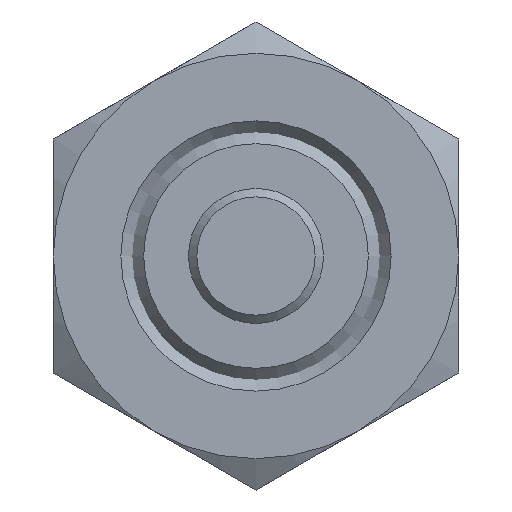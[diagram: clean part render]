
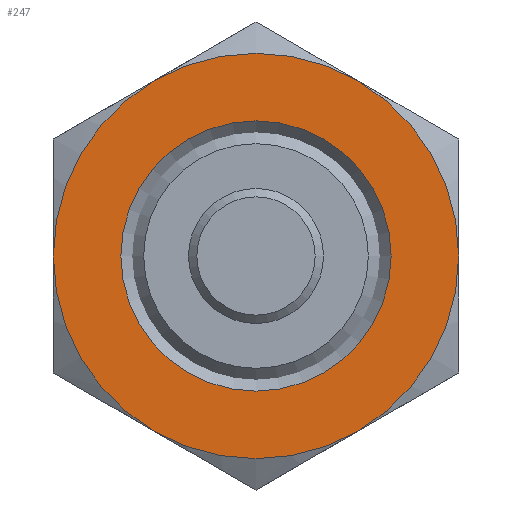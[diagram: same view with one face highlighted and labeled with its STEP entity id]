
A CAD part, front view. The second image highlights one B-rep face of the part: STEP entity #247.
In plain terms, the highlighted planar face has unit normal (0, -1, 0) as drawn and (1, 0, 0) by its records, which use the part's own axes.
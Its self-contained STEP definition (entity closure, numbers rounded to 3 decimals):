
#247 = ADVANCED_FACE( '', ( #381, #382 ), #383, .F. );
#381 = FACE_BOUND( '', #539, .T. );
#382 = FACE_OUTER_BOUND( '', #540, .T. );
#383 = PLANE( '', #541 );
#539 = EDGE_LOOP( '', ( #831 ) );
#540 = EDGE_LOOP( '', ( #832, #833, #834, #835, #836, #837 ) );
#541 = AXIS2_PLACEMENT_3D( '', #838, #839, #840 );
#831 = ORIENTED_EDGE( '', *, *, #1034, .F. );
#832 = ORIENTED_EDGE( '', *, *, #1035, .T. );
#833 = ORIENTED_EDGE( '', *, *, #1036, .T. );
#834 = ORIENTED_EDGE( '', *, *, #1037, .T. );
#835 = ORIENTED_EDGE( '', *, *, #1038, .T. );
#836 = ORIENTED_EDGE( '', *, *, #1039, .T. );
#837 = ORIENTED_EDGE( '', *, *, #1040, .T. );
#838 = CARTESIAN_POINT( '', ( 8., 12., 0. ) );
#839 = DIRECTION( '', ( -1., 0., 0. ) );
#840 = DIRECTION( '', ( 0., 0., 1. ) );
#1034 = EDGE_CURVE( '', #1192, #1192, #1193, .T. );
#1035 = EDGE_CURVE( '', #1194, #1195, #1196, .T. );
#1036 = EDGE_CURVE( '', #1195, #1174, #1197, .T. );
#1037 = EDGE_CURVE( '', #1174, #1165, #1198, .T. );
#1038 = EDGE_CURVE( '', #1165, #1186, #1199, .T. );
#1039 = EDGE_CURVE( '', #1186, #1200, #1201, .T. );
#1040 = EDGE_CURVE( '', #1200, #1194, #1202, .T. );
#1165 = VERTEX_POINT( '', #1428 );
#1174 = VERTEX_POINT( '', #1462 );
#1186 = VERTEX_POINT( '', #1500 );
#1192 = VERTEX_POINT( '', #1530 );
#1193 = CIRCLE( '', #1531, 8. );
#1194 = VERTEX_POINT( '', #1532 );
#1195 = VERTEX_POINT( '', #1533 );
#1196 = CIRCLE( '', #1534, 12. );
#1197 = CIRCLE( '', #1535, 12. );
#1198 = CIRCLE( '', #1536, 12. );
#1199 = CIRCLE( '', #1537, 12. );
#1200 = VERTEX_POINT( '', #1538 );
#1201 = CIRCLE( '', #1539, 12. );
#1202 = CIRCLE( '', #1540, 12. );
#1428 = CARTESIAN_POINT( '', ( 8., 0., 12. ) );
#1462 = CARTESIAN_POINT( '', ( 8., 10.392, 6. ) );
#1500 = CARTESIAN_POINT( '', ( 8., -10.392, 6. ) );
#1530 = CARTESIAN_POINT( '', ( 8., 0., -8. ) );
#1531 = AXIS2_PLACEMENT_3D( '', #1773, #1774, #1775 );
#1532 = CARTESIAN_POINT( '', ( 8., 0., -12. ) );
#1533 = CARTESIAN_POINT( '', ( 8., 10.392, -6. ) );
#1534 = AXIS2_PLACEMENT_3D( '', #1776, #1777, #1778 );
#1535 = AXIS2_PLACEMENT_3D( '', #1779, #1780, #1781 );
#1536 = AXIS2_PLACEMENT_3D( '', #1782, #1783, #1784 );
#1537 = AXIS2_PLACEMENT_3D( '', #1785, #1786, #1787 );
#1538 = CARTESIAN_POINT( '', ( 8., -10.392, -6. ) );
#1539 = AXIS2_PLACEMENT_3D( '', #1788, #1789, #1790 );
#1540 = AXIS2_PLACEMENT_3D( '', #1791, #1792, #1793 );
#1773 = CARTESIAN_POINT( '', ( 8., 0., 0. ) );
#1774 = DIRECTION( '', ( 1., 0., 0. ) );
#1775 = DIRECTION( '', ( 0., 0., -1. ) );
#1776 = CARTESIAN_POINT( '', ( 8., 0., 0. ) );
#1777 = DIRECTION( '', ( 1., 0., 0. ) );
#1778 = DIRECTION( '', ( 0., 0., -1. ) );
#1779 = CARTESIAN_POINT( '', ( 8., 0., 0. ) );
#1780 = DIRECTION( '', ( 1., 0., 0. ) );
#1781 = DIRECTION( '', ( 0., 0., -1. ) );
#1782 = CARTESIAN_POINT( '', ( 8., 0., 0. ) );
#1783 = DIRECTION( '', ( 1., 0., 0. ) );
#1784 = DIRECTION( '', ( 0., 0., -1. ) );
#1785 = CARTESIAN_POINT( '', ( 8., 0., 0. ) );
#1786 = DIRECTION( '', ( 1., 0., 0. ) );
#1787 = DIRECTION( '', ( 0., 0., -1. ) );
#1788 = CARTESIAN_POINT( '', ( 8., 0., 0. ) );
#1789 = DIRECTION( '', ( 1., 0., 0. ) );
#1790 = DIRECTION( '', ( 0., 0., -1. ) );
#1791 = CARTESIAN_POINT( '', ( 8., 0., 0. ) );
#1792 = DIRECTION( '', ( 1., 0., 0. ) );
#1793 = DIRECTION( '', ( 0., 0., -1. ) );
